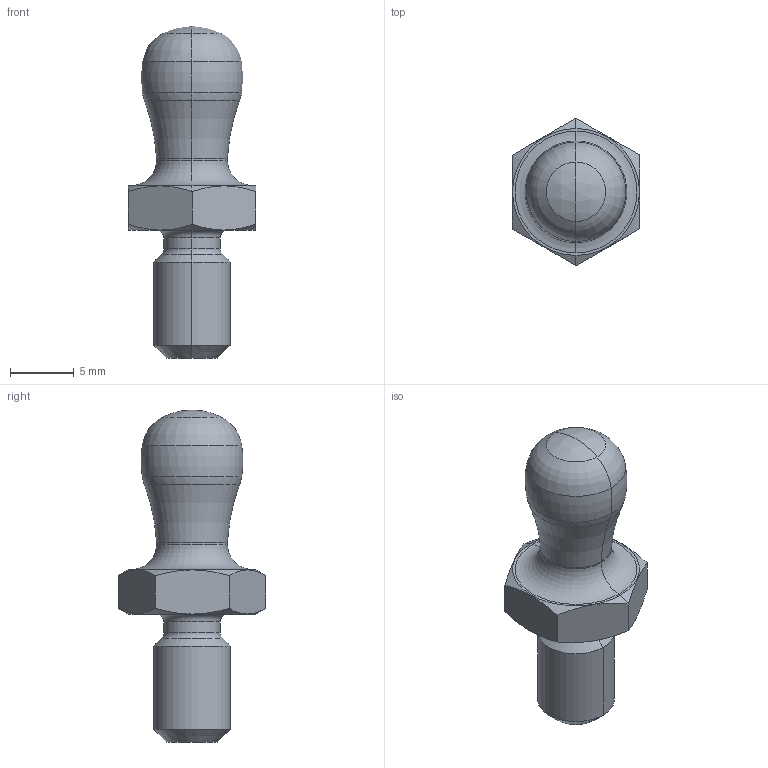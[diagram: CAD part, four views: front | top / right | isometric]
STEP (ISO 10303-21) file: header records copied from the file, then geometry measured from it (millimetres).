
FILE_DESCRIPTION (( 'STEP AP214' ), '1' );
FILE_NAME ('Befestigungsstift HW730.STEP', '2017-11-13T07:12:48', ( '' ), ( '' ), 'SwSTEP 2.0', 'SolidWorks 2015', '' );
FILE_SCHEMA (( 'AUTOMOTIVE_DESIGN' ));
Length unit declared in the file: millimetre
Products named in the file (1): Befestigungsstift HW730
Bounding box: 10.02 x 11.55 x 26 mm (x, y, z)
Volume: 991.7 mm3; surface area: 709.6 mm2
Topology: 1 solids, 1 shells, 39 faces, 84 edges, 49 vertices
Faces by surface type: torus 16, plane 9, cone 8, cylinder 4, sphere 2
Entity records: 1182 total; most frequent: CARTESIAN_POINT 293, DIRECTION 198, ORIENTED_EDGE 168, AXIS2_PLACEMENT_3D 90, EDGE_CURVE 84, CIRCLE 50, VERTEX_POINT 49, EDGE_LOOP 41
